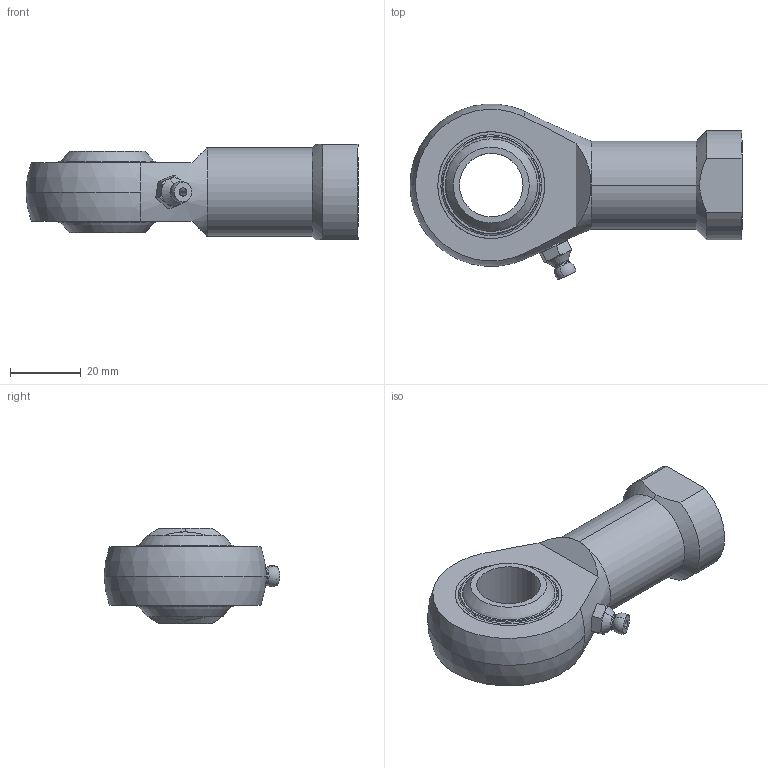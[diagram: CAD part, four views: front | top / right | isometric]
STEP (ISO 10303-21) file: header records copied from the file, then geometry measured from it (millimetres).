
FILE_DESCRIPTION (( 'STEP AP203' ), '1' );
FILE_NAME ('65760.W0118.step', '2014-02-11T16:42:43', ( 'User' ), ( '' ), 'SwSTEP 2.0', 'SolidWorks 2009', '' );
FILE_SCHEMA (( 'CONFIG_CONTROL_DESIGN' ));
Length unit declared in the file: millimetre
Products named in the file (5): 65760.W0118; Part1_65760.W0118; Part2_65760.W0118; Part3_M6; Part4_65760.W0118
Assembly tree (5 placements, depth 2):
  65760.W0118
    Part1_65760.W0118
    Part3_M6
    Part4_65760.W0118  x2
    Part2_65760.W0118
Bounding box: 94 x 49.73 x 27 mm (x, y, z)
Volume: 40156 mm3; surface area: 20792.1 mm2
Topology: 46 solids, 46 shells, 183 faces, 524 edges, 353 vertices
Faces by surface type: sphere 98, plane 27, torus 22, cylinder 20, cone 16
Entity records: 4815 total; most frequent: CARTESIAN_POINT 909, DIRECTION 814, ORIENTED_EDGE 558, AXIS2_PLACEMENT_3D 385, EDGE_CURVE 279, VERTEX_POINT 208, CIRCLE 207, EDGE_LOOP 189
